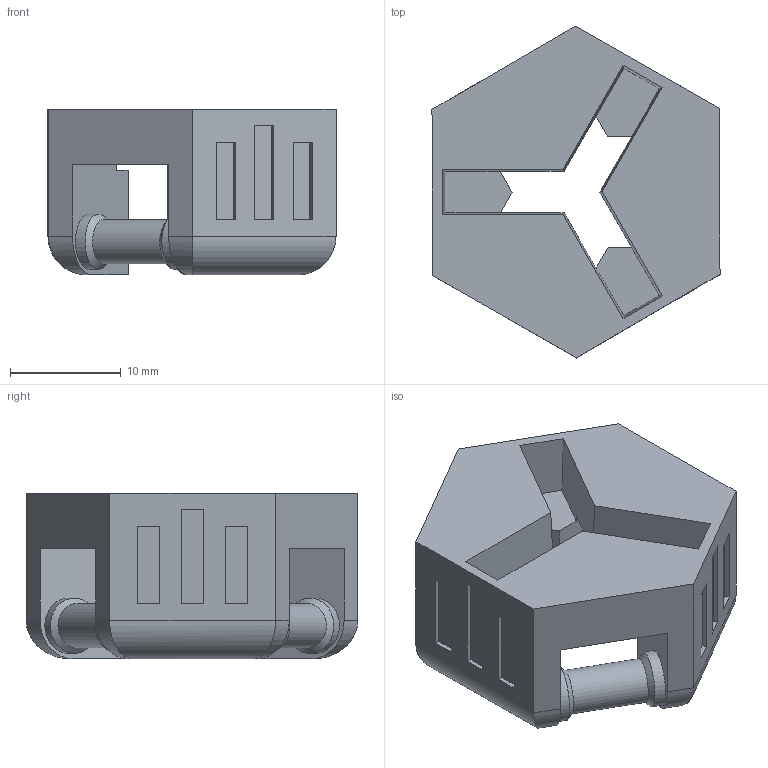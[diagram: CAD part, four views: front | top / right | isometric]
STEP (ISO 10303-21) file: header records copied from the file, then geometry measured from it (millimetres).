
FILE_DESCRIPTION(/* description */ (''),/* implementation_level */ '2;1');
FILE_NAME(/* name */ 'C:/Users/arthu/Desktop/3D/Porte portap/step_files/Tripod center.step',/* time_stamp */ '2021-01-11T17:19:27+01:00',/* author */ (''),/* organization */ (''),/* preprocessor_version */ 'ST-DEVELOPER v18.1',/* originating_system */ 'Autodesk Translation Framework v9.7.1.1290',/* authorisation */ '');
FILE_SCHEMA (('AUTOMOTIVE_DESIGN { 1 0 10303 214 3 1 1 }'));
Length unit declared in the file: millimetre
Products named in the file (1): Tripod center
Bounding box: 26.05 x 30 x 15 mm (x, y, z)
Volume: 4831.3 mm3; surface area: 3337.6 mm2
Topology: 1 solids, 1 shells, 100 faces, 252 edges, 162 vertices
Faces by surface type: plane 76, cylinder 18, cone 6
Full cylindrical faces by diameter (mm): 4 x3, 5 x6
Entity records: 2998 total; most frequent: CARTESIAN_POINT 515, ORIENTED_EDGE 504, DIRECTION 484, EDGE_CURVE 252, LINE 222, VECTOR 222, VERTEX_POINT 162, AXIS2_PLACEMENT_3D 131
